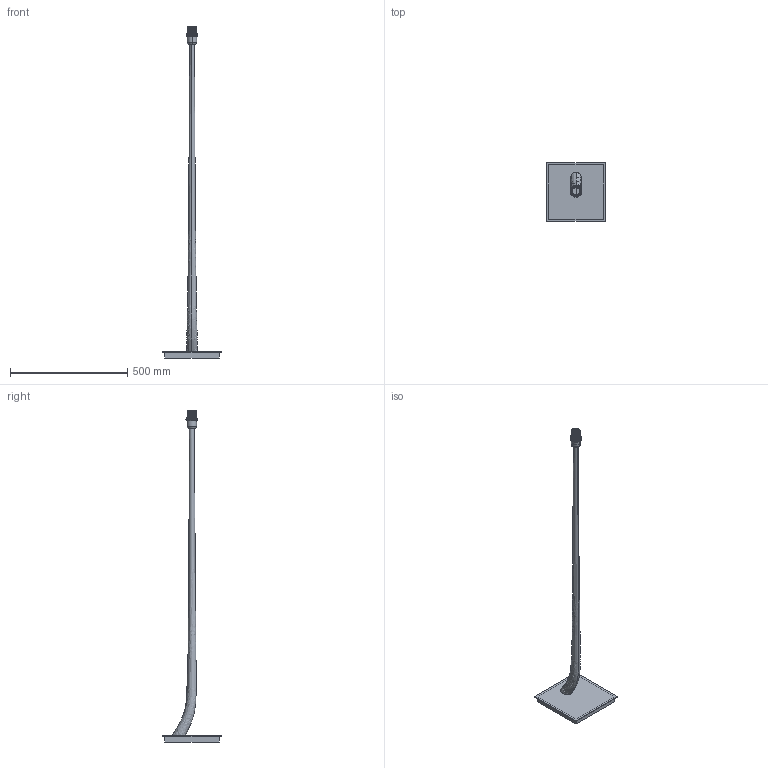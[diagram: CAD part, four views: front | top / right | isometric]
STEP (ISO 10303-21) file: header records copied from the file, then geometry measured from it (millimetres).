
FILE_DESCRIPTION(/* description */ (''),/* implementation_level */ '2;1');
FILE_NAME(/* name */ 'C:\Users\FrancoSartori\Documents\FARO\01_En Proceso\00_REM\03_Publicación\29686.stp',/* time_stamp */ '2021-07-07T12:32:39+02:00',/* author */ ('FrancoSartori'),/* organization */ (''),/* preprocessor_version */ 'ST-DEVELOPER v18.1',/* originating_system */ 'AutoCAD Mechanical',/* authorisation */ '');
FILE_SCHEMA (('AUTOMOTIVE_DESIGN { 1 0 10303 214 3 1 1 }'));
Length unit declared in the file: millimetre
Products named in the file (2): Product; 29686_ 29687_ - STR-682947-_3D_
Assembly tree (1 placements, depth 2):
  Product
    29686_ 29687_ - STR-682947-_3D_
Bounding box: 250 x 250 x 1414 mm (x, y, z)
Volume: 2432576.8 mm3; surface area: 300940.4 mm2
Topology: 2 solids, 2 shells, 139 faces, 283 edges, 150 vertices
Faces by surface type: plane 71, cylinder 58, torus 8, bspline 2
Entity records: 4689 total; most frequent: CARTESIAN_POINT 1739, DIRECTION 655, ORIENTED_EDGE 566, EDGE_CURVE 283, AXIS2_PLACEMENT_3D 258, VERTEX_POINT 150, EDGE_LOOP 141, FACE_OUTER_BOUND 139
